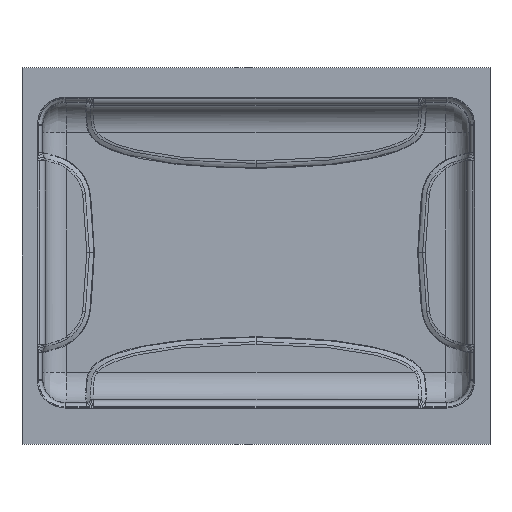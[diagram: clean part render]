
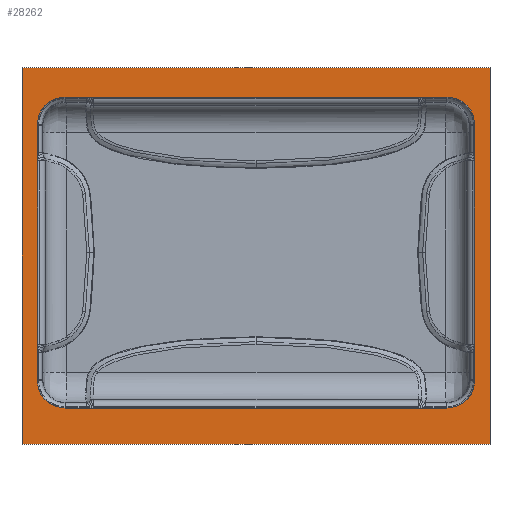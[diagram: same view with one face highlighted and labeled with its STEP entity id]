
A CAD part, front view. The second image highlights one B-rep face of the part: STEP entity #28262.
In plain terms, the highlighted planar face has unit normal (0, -1, 0).
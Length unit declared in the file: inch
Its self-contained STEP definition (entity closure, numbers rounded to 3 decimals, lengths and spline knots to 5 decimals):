
#208 = AXIS2_PLACEMENT_3D ( 'NONE', #10311, #10312, #10313 ) ;
#210 = CIRCLE ( 'NONE', #208, 0.98705 ) ;
#211 = AXIS2_PLACEMENT_3D ( 'NONE', #10290, #10291, #10292 ) ;
#218 = CIRCLE ( 'NONE', #211, 0.98705 ) ;
#271 = CIRCLE ( 'NONE', #279, 0.98705 ) ;
#279 = AXIS2_PLACEMENT_3D ( 'NONE', #21546, #21547, #21548 ) ;
#324 = VECTOR ( 'NONE', #26562, 39.37008 ) ;
#346 = VECTOR ( 'NONE', #26680, 39.37008 ) ;
#388 = VECTOR ( 'NONE', #14116, 39.37008 ) ;
#517 = VECTOR ( 'NONE', #23981, 39.37008 ) ;
#577 = AXIS2_PLACEMENT_3D ( 'NONE', #22560, #22561, #22562 ) ;
#580 = CIRCLE ( 'NONE', #577, 0.98705 ) ;
#584 = AXIS2_PLACEMENT_3D ( 'NONE', #22721, #22728, #22729 ) ;
#611 = VECTOR ( 'NONE', #28829, 39.37008 ) ;
#652 = VECTOR ( 'NONE', #26432, 39.37008 ) ;
#656 = VECTOR ( 'NONE', #3804, 39.37008 ) ;
#683 = VECTOR ( 'NONE', #4298, 39.37008 ) ;
#3798 = CARTESIAN_POINT ( 'NONE',  ( -7.7784, 0., -6.81135 ) ) ;
#3799 = LINE ( 'NONE', #3798, #656 ) ;
#3804 = DIRECTION ( 'NONE',  ( 0., 0., 1. ) ) ;
#4296 = LINE ( 'NONE', #4297, #683 ) ;
#4297 = CARTESIAN_POINT ( 'NONE',  ( -8.32135, 0., 5.5284 ) ) ;
#4298 = DIRECTION ( 'NONE',  ( 1., 0., 0. ) ) ;
#10290 = CARTESIAN_POINT ( 'NONE',  ( 6.79135, 0., -4.54135 ) ) ;
#10291 = DIRECTION ( 'NONE',  ( 0., 1., 0. ) ) ;
#10292 = DIRECTION ( 'NONE',  ( 1., 0., 0. ) ) ;
#10311 = CARTESIAN_POINT ( 'NONE',  ( 6.79135, 0., 4.54135 ) ) ;
#10312 = DIRECTION ( 'NONE',  ( 0., 1., 0. ) ) ;
#10313 = DIRECTION ( 'NONE',  ( 1., 0., 0. ) ) ;
#10571 = CARTESIAN_POINT ( 'NONE',  ( 6.79135, 0., -5.5284 ) ) ;
#10583 = CARTESIAN_POINT ( 'NONE',  ( 8.32135, 0., -6.81135 ) ) ;
#10603 = CARTESIAN_POINT ( 'NONE',  ( 7.7784, 0., 4.54135 ) ) ;
#10607 = CARTESIAN_POINT ( 'NONE',  ( -7.7784, 0., 4.54135 ) ) ;
#10709 = CARTESIAN_POINT ( 'NONE',  ( 6.79135, 0., 5.5284 ) ) ;
#10896 = CARTESIAN_POINT ( 'NONE',  ( -6.79135, 0., 5.5284 ) ) ;
#10944 = CARTESIAN_POINT ( 'NONE',  ( -6.79135, 0., -5.5284 ) ) ;
#10950 = CARTESIAN_POINT ( 'NONE',  ( -8.32135, 0., -6.81135 ) ) ;
#10992 = CARTESIAN_POINT ( 'NONE',  ( 8.32135, 0., 6.5676 ) ) ;
#11050 = CARTESIAN_POINT ( 'NONE',  ( 7.7784, 0., -4.54135 ) ) ;
#11065 = CARTESIAN_POINT ( 'NONE',  ( -8.32135, 0., 6.5676 ) ) ;
#11109 = CARTESIAN_POINT ( 'NONE',  ( -7.7784, 0., -4.54135 ) ) ;
#14114 = LINE ( 'NONE', #14115, #388 ) ;
#14115 = CARTESIAN_POINT ( 'NONE',  ( -8.32135, 0., -6.81135 ) ) ;
#14116 = DIRECTION ( 'NONE',  ( -1., 0., 0. ) ) ;
#15036 = EDGE_LOOP ( 'NONE', ( #29960, #29928, #30001, #29997, #30005, #29920, #29979, #29918 ) ) ;
#17819 = EDGE_LOOP ( 'NONE', ( #29968, #30000, #29995, #29992 ) ) ;
#21546 = CARTESIAN_POINT ( 'NONE',  ( -6.79135, 0., 4.54135 ) ) ;
#21547 = DIRECTION ( 'NONE',  ( 0., 1., 0. ) ) ;
#21548 = DIRECTION ( 'NONE',  ( 1., 0., 0. ) ) ;
#22560 = CARTESIAN_POINT ( 'NONE',  ( -6.79135, 0., -4.54135 ) ) ;
#22561 = DIRECTION ( 'NONE',  ( 0., 1., 0. ) ) ;
#22562 = DIRECTION ( 'NONE',  ( 1., 0., 0. ) ) ;
#22721 = CARTESIAN_POINT ( 'NONE',  ( -8.32135, 0., -6.81135 ) ) ;
#22724 = FACE_OUTER_BOUND ( 'NONE', #17819, .T. ) ;
#22725 = FACE_BOUND ( 'NONE', #15036, .T. ) ;
#22726 = PLANE ( 'NONE',  #584 ) ;
#22728 = DIRECTION ( 'NONE',  ( 0., -1., 0. ) ) ;
#22729 = DIRECTION ( 'NONE',  ( 0., 0., -1. ) ) ;
#23979 = LINE ( 'NONE', #23980, #517 ) ;
#23980 = CARTESIAN_POINT ( 'NONE',  ( -8.32135, 0., 6.5676 ) ) ;
#23981 = DIRECTION ( 'NONE',  ( 1., 0., 0. ) ) ;
#26423 = LINE ( 'NONE', #26430, #652 ) ;
#26430 = CARTESIAN_POINT ( 'NONE',  ( -8.32135, 0., 6.5676 ) ) ;
#26432 = DIRECTION ( 'NONE',  ( 0., 0., 1. ) ) ;
#26480 = LINE ( 'NONE', #26561, #324 ) ;
#26561 = CARTESIAN_POINT ( 'NONE',  ( -8.32135, 0., -5.5284 ) ) ;
#26562 = DIRECTION ( 'NONE',  ( -1., 0., 0. ) ) ;
#26678 = LINE ( 'NONE', #26679, #346 ) ;
#26679 = CARTESIAN_POINT ( 'NONE',  ( 7.7784, 0., -6.81135 ) ) ;
#26680 = DIRECTION ( 'NONE',  ( 0., 0., -1. ) ) ;
#27942 = EDGE_CURVE ( 'NONE', #30398, #30051, #3799, .T. ) ;
#27962 = EDGE_CURVE ( 'NONE', #30324, #30108, #4296, .T. ) ;
#27990 = EDGE_CURVE ( 'NONE', #30373, #30035, #28826, .T. ) ;
#28056 = EDGE_CURVE ( 'NONE', #30304, #30374, #26423, .T. ) ;
#28060 = EDGE_CURVE ( 'NONE', #30028, #30301, #26480, .T. ) ;
#28072 = EDGE_CURVE ( 'NONE', #30049, #30364, #26678, .T. ) ;
#28175 = EDGE_CURVE ( 'NONE', #30374, #30373, #23979, .T. ) ;
#28255 = EDGE_CURVE ( 'NONE', #30301, #30398, #580, .T. ) ;
#28262 = ADVANCED_FACE ( 'NONE', ( #22724, #22725 ), #22726, .T. ) ;
#28337 = EDGE_CURVE ( 'NONE', #30051, #30324, #271, .T. ) ;
#28479 = EDGE_CURVE ( 'NONE', #30035, #30304, #14114, .T. ) ;
#28616 = EDGE_CURVE ( 'NONE', #30364, #30028, #218, .T. ) ;
#28620 = EDGE_CURVE ( 'NONE', #30108, #30049, #210, .T. ) ;
#28826 = LINE ( 'NONE', #28828, #611 ) ;
#28828 = CARTESIAN_POINT ( 'NONE',  ( 8.32135, 0., 6.5676 ) ) ;
#28829 = DIRECTION ( 'NONE',  ( 0., 0., -1. ) ) ;
#29918 = ORIENTED_EDGE ( 'NONE', *, *, #28255, .T. ) ;
#29920 = ORIENTED_EDGE ( 'NONE', *, *, #28616, .T. ) ;
#29928 = ORIENTED_EDGE ( 'NONE', *, *, #28337, .T. ) ;
#29960 = ORIENTED_EDGE ( 'NONE', *, *, #27942, .T. ) ;
#29968 = ORIENTED_EDGE ( 'NONE', *, *, #27990, .F. ) ;
#29979 = ORIENTED_EDGE ( 'NONE', *, *, #28060, .T. ) ;
#29992 = ORIENTED_EDGE ( 'NONE', *, *, #28479, .F. ) ;
#29995 = ORIENTED_EDGE ( 'NONE', *, *, #28056, .F. ) ;
#29997 = ORIENTED_EDGE ( 'NONE', *, *, #28620, .T. ) ;
#30000 = ORIENTED_EDGE ( 'NONE', *, *, #28175, .F. ) ;
#30001 = ORIENTED_EDGE ( 'NONE', *, *, #27962, .T. ) ;
#30005 = ORIENTED_EDGE ( 'NONE', *, *, #28072, .T. ) ;
#30028 = VERTEX_POINT ( 'NONE', #10571 ) ;
#30035 = VERTEX_POINT ( 'NONE', #10583 ) ;
#30049 = VERTEX_POINT ( 'NONE', #10603 ) ;
#30051 = VERTEX_POINT ( 'NONE', #10607 ) ;
#30108 = VERTEX_POINT ( 'NONE', #10709 ) ;
#30301 = VERTEX_POINT ( 'NONE', #10944 ) ;
#30304 = VERTEX_POINT ( 'NONE', #10950 ) ;
#30324 = VERTEX_POINT ( 'NONE', #10896 ) ;
#30364 = VERTEX_POINT ( 'NONE', #11050 ) ;
#30373 = VERTEX_POINT ( 'NONE', #10992 ) ;
#30374 = VERTEX_POINT ( 'NONE', #11065 ) ;
#30398 = VERTEX_POINT ( 'NONE', #11109 ) ;
